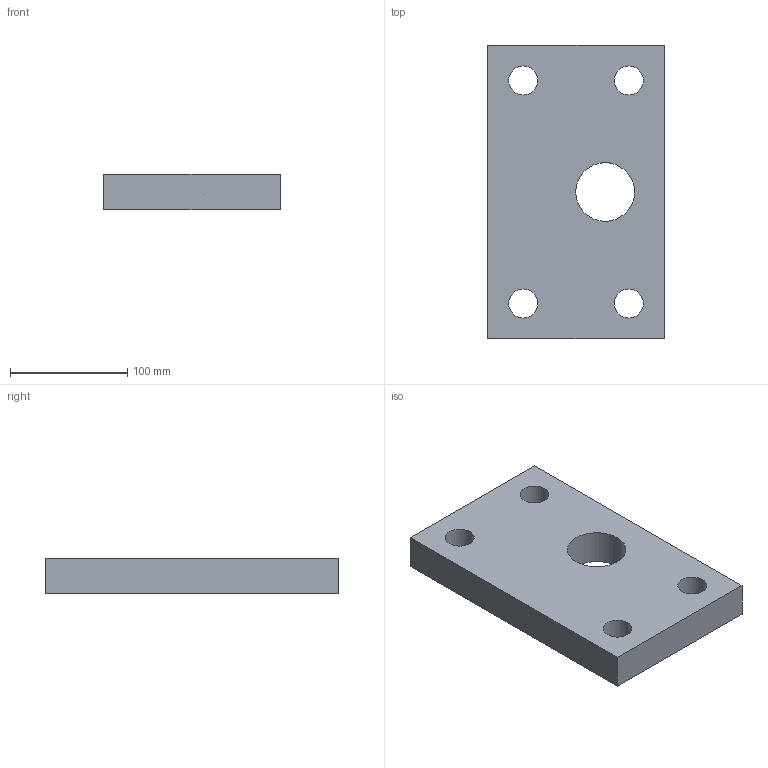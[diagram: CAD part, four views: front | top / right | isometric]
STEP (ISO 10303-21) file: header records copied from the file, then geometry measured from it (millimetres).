
FILE_DESCRIPTION(/* description */ (''),/* implementation_level */ '2;1');
FILE_NAME(/* name */ 'Bottomplate',/* time_stamp */ '2005-04-11T10:49:20+05:00',/* author */ (''),/* organization */ (''),/* preprocessor_version */ 'ST-DEVELOPER v9',/* originating_system */ 'UGS - NX 3.0',/* authorisation */ '');
FILE_SCHEMA (('CONFIG_CONTROL_DESIGN'));
Length unit declared in the file: millimetre
Products named in the file (1): CADC04D5rgs7
Bounding box: 150 x 250 x 30 mm (x, y, z)
Volume: 1008201.1 mm3; surface area: 105269.4 mm2
Topology: 1 solids, 1 shells, 11 faces, 27 edges, 18 vertices
Faces by surface type: plane 6, cylinder 5
Full cylindrical faces by diameter (mm): 24.785 x4, 50 x1
Entity records: 412 total; most frequent: DIRECTION 56, CARTESIAN_POINT 52, ORIENTED_EDGE 44, EDGE_LOOP 26, EDGE_CURVE 22, AXIS2_PLACEMENT_3D 22, FACE_BOUND 20, VERTEX_POINT 18
